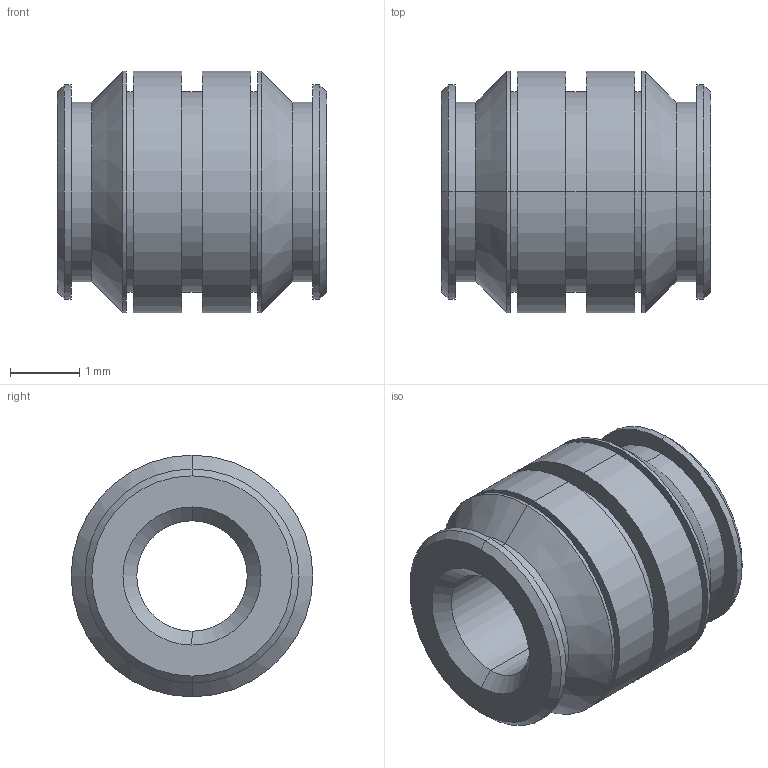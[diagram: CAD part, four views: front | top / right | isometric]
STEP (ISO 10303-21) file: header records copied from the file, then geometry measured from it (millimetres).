
FILE_DESCRIPTION (( 'STEP AP203' ), '1' );
FILE_NAME ('FSUK-DUO-M02-S.STEP', '2021-04-15T09:10:18', ( '' ), ( '' ), 'SwSTEP 2.0', 'SolidWorks 2021', '' );
FILE_SCHEMA (( 'CONFIG_CONTROL_DESIGN' ));
Length unit declared in the file: millimetre
Products named in the file (1): FSUK-DUO-M02-S
Bounding box: 3.9 x 3.5 x 3.5 mm (x, y, z)
Volume: 22.4 mm3; surface area: 93.1 mm2
Topology: 1 solids, 1 shells, 46 faces, 92 edges, 56 vertices
Faces by surface type: cylinder 24, cone 12, plane 10
Entity records: 1285 total; most frequent: DIRECTION 242, CARTESIAN_POINT 195, ORIENTED_EDGE 184, AXIS2_PLACEMENT_3D 103, EDGE_CURVE 92, EDGE_LOOP 56, CIRCLE 56, VERTEX_POINT 56
